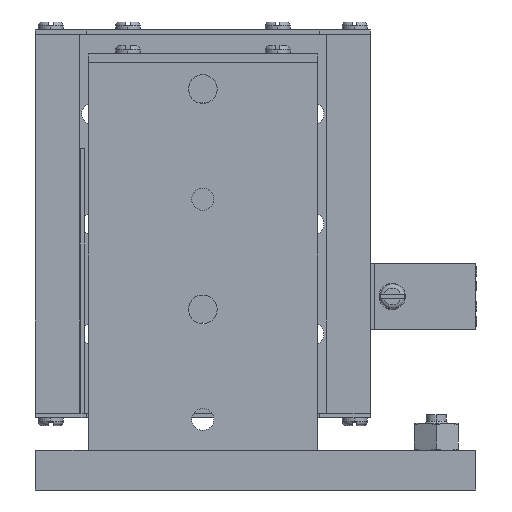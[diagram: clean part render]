
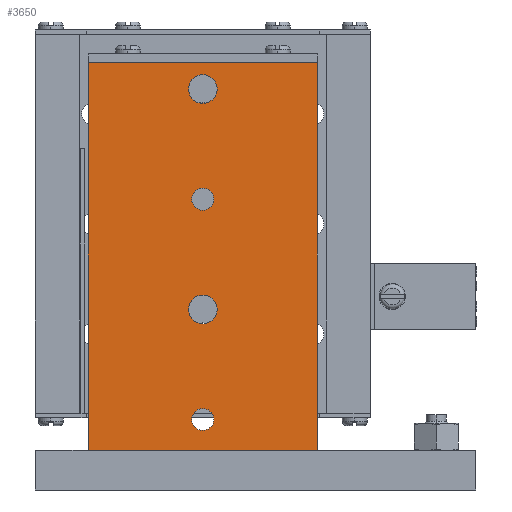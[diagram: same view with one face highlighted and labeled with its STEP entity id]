
A CAD part, left-side view. The second image highlights one B-rep face of the part: STEP entity #3650.
In plain terms, the highlighted planar face has unit normal (-1, 0, 0).
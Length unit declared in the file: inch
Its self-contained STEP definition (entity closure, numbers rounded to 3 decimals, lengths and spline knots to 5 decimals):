
#265=DIRECTION('',(0.,0.,1.));
#266=VECTOR('',#265,3.46457);
#267=CARTESIAN_POINT('',(-0.31496,-1.02362,0.));
#268=LINE('',#267,#266);
#490=DIRECTION('',(0.,0.,1.));
#491=VECTOR('',#490,3.46457);
#492=CARTESIAN_POINT('',(-0.31496,1.02362,0.));
#493=LINE('',#492,#491);
#494=CARTESIAN_POINT('',(-0.31496,0.,2.24409));
#495=DIRECTION('',(1.,0.,0.));
#496=DIRECTION('',(0.,-1.,0.));
#497=AXIS2_PLACEMENT_3D('',#494,#495,#496);
#499=CARTESIAN_POINT('',(-0.31496,0.,2.24409));
#500=DIRECTION('',(1.,0.,0.));
#501=DIRECTION('',(0.,1.,0.));
#502=AXIS2_PLACEMENT_3D('',#499,#500,#501);
#504=CARTESIAN_POINT('',(-0.31496,0.,0.27559));
#505=DIRECTION('',(1.,0.,0.));
#506=DIRECTION('',(0.,-1.,0.));
#507=AXIS2_PLACEMENT_3D('',#504,#505,#506);
#509=CARTESIAN_POINT('',(-0.31496,0.,0.27559));
#510=DIRECTION('',(1.,0.,0.));
#511=DIRECTION('',(0.,1.,0.));
#512=AXIS2_PLACEMENT_3D('',#509,#510,#511);
#514=CARTESIAN_POINT('',(-0.31496,0.,1.25984));
#515=DIRECTION('',(-1.,0.,0.));
#516=DIRECTION('',(0.,-1.,0.));
#517=AXIS2_PLACEMENT_3D('',#514,#515,#516);
#519=CARTESIAN_POINT('',(-0.31496,0.,1.25984));
#520=DIRECTION('',(-1.,0.,0.));
#521=DIRECTION('',(0.,1.,0.));
#522=AXIS2_PLACEMENT_3D('',#519,#520,#521);
#524=CARTESIAN_POINT('',(-0.31496,0.,3.22835));
#525=DIRECTION('',(-1.,0.,0.));
#526=DIRECTION('',(0.,-1.,0.));
#527=AXIS2_PLACEMENT_3D('',#524,#525,#526);
#529=CARTESIAN_POINT('',(-0.31496,0.,3.22835));
#530=DIRECTION('',(-1.,0.,0.));
#531=DIRECTION('',(0.,1.,0.));
#532=AXIS2_PLACEMENT_3D('',#529,#530,#531);
#542=DIRECTION('',(0.,-1.,0.));
#543=VECTOR('',#542,2.04724);
#544=CARTESIAN_POINT('',(-0.31496,1.02362,0.));
#545=LINE('',#544,#543);
#1106=DIRECTION('',(0.,-1.,0.));
#1107=VECTOR('',#1106,2.04724);
#1108=CARTESIAN_POINT('',(-0.31496,1.02362,
3.46457));
#1109=LINE('',#1108,#1107);
#2504=CARTESIAN_POINT('',(-0.31496,1.02362,0.));
#2505=CARTESIAN_POINT('',(-0.31496,-1.02362,0.));
#2506=VERTEX_POINT('',#2504);
#2507=VERTEX_POINT('',#2505);
#2508=CARTESIAN_POINT('',(-0.31496,1.02362,
3.46457));
#2509=CARTESIAN_POINT('',(-0.31496,-1.02362,
3.46457));
#2510=VERTEX_POINT('',#2508);
#2511=VERTEX_POINT('',#2509);
#2528=CARTESIAN_POINT('',(-0.31496,-0.09843,
2.24409));
#2529=CARTESIAN_POINT('',(-0.31496,0.09843,
2.24409));
#2530=VERTEX_POINT('',#2528);
#2531=VERTEX_POINT('',#2529);
#2532=CARTESIAN_POINT('',(-0.31496,-0.09843,
0.27559));
#2533=CARTESIAN_POINT('',(-0.31496,0.09843,
0.27559));
#2534=VERTEX_POINT('',#2532);
#2535=VERTEX_POINT('',#2533);
#2536=CARTESIAN_POINT('',(-0.31496,-0.12795,
1.25984));
#2537=CARTESIAN_POINT('',(-0.31496,0.12795,
1.25984));
#2538=VERTEX_POINT('',#2536);
#2539=VERTEX_POINT('',#2537);
#2540=CARTESIAN_POINT('',(-0.31496,-0.12795,
3.22835));
#2541=CARTESIAN_POINT('',(-0.31496,0.12795,
3.22835));
#2542=VERTEX_POINT('',#2540);
#2543=VERTEX_POINT('',#2541);
#3614=CARTESIAN_POINT('',(-0.31496,1.02362,0.));
#3615=DIRECTION('',(-1.,0.,0.));
#3616=DIRECTION('',(0.,-1.,0.));
#3617=AXIS2_PLACEMENT_3D('',#3614,#3615,#3616);
#3618=PLANE('',#3617);
#3620=ORIENTED_EDGE('',*,*,#3619,.F.);
#3622=ORIENTED_EDGE('',*,*,#3621,.T.);
#3624=ORIENTED_EDGE('',*,*,#3623,.T.);
#3625=ORIENTED_EDGE('',*,*,#3348,.F.);
#3626=EDGE_LOOP('',(#3620,#3622,#3624,#3625));
#3627=FACE_OUTER_BOUND('',#3626,.F.);
#3629=ORIENTED_EDGE('',*,*,#3628,.F.);
#3631=ORIENTED_EDGE('',*,*,#3630,.F.);
#3632=EDGE_LOOP('',(#3629,#3631));
#3633=FACE_BOUND('',#3632,.F.);
#3635=ORIENTED_EDGE('',*,*,#3634,.F.);
#3637=ORIENTED_EDGE('',*,*,#3636,.F.);
#3638=EDGE_LOOP('',(#3635,#3637));
#3639=FACE_BOUND('',#3638,.F.);
#3641=ORIENTED_EDGE('',*,*,#3640,.T.);
#3643=ORIENTED_EDGE('',*,*,#3642,.T.);
#3644=EDGE_LOOP('',(#3641,#3643));
#3645=FACE_BOUND('',#3644,.F.);
#3646=ORIENTED_EDGE('',*,*,#3608,.T.);
#3647=ORIENTED_EDGE('',*,*,#3594,.T.);
#3648=EDGE_LOOP('',(#3646,#3647));
#3649=FACE_BOUND('',#3648,.F.);
#3650=ADVANCED_FACE('',(#3627,#3633,#3639,#3645,#3649),#3618,.T.);
#498=CIRCLE('',#497,0.09843);
#503=CIRCLE('',#502,0.09843);
#508=CIRCLE('',#507,0.09843);
#513=CIRCLE('',#512,0.09843);
#518=CIRCLE('',#517,0.12795);
#523=CIRCLE('',#522,0.12795);
#528=CIRCLE('',#527,0.12795);
#533=CIRCLE('',#532,0.12795);
#3348=EDGE_CURVE('',#2507,#2511,#268,.T.);
#3594=EDGE_CURVE('',#2543,#2542,#533,.T.);
#3608=EDGE_CURVE('',#2542,#2543,#528,.T.);
#3619=EDGE_CURVE('',#2506,#2507,#545,.T.);
#3621=EDGE_CURVE('',#2506,#2510,#493,.T.);
#3623=EDGE_CURVE('',#2510,#2511,#1109,.T.);
#3628=EDGE_CURVE('',#2530,#2531,#498,.T.);
#3630=EDGE_CURVE('',#2531,#2530,#503,.T.);
#3634=EDGE_CURVE('',#2534,#2535,#508,.T.);
#3636=EDGE_CURVE('',#2535,#2534,#513,.T.);
#3640=EDGE_CURVE('',#2538,#2539,#518,.T.);
#3642=EDGE_CURVE('',#2539,#2538,#523,.T.);
